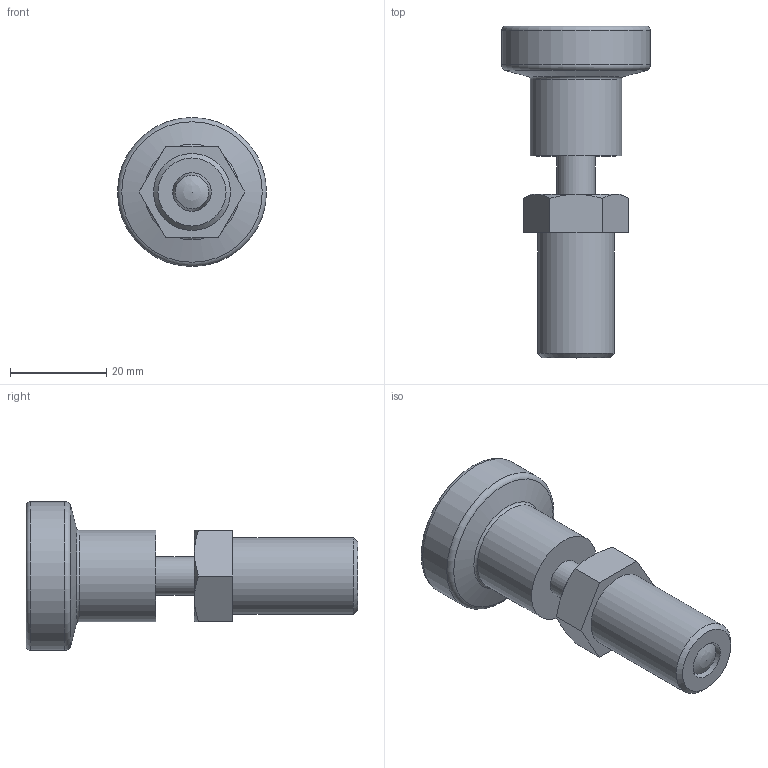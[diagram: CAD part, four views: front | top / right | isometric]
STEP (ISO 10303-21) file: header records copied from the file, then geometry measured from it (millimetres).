
FILE_DESCRIPTION( ( 'STEP AP203' ), '1' );
FILE_NAME( 'C:/Temp/Ganter_Step_05_03_2020/data/3_1/gn617_n/gn617n_an/Stainless Steel Indexing plunger GN 617-8-AN-NI (activated).stp', '2020-03-12T08:43:04', ( 'License CC BY-ND 4.0' ), ( 'CADENAS' ), ' ', 'PARTsolutions', ' ' );
FILE_SCHEMA( ( 'CONFIG_CONTROL_DESIGN' ) );
Length unit declared in the file: millimetre
Products named in the file (3): Stainless Steel Indexing plunger GN 617-8-AN-NI (activated); _STAINLESS STEEL - Indexing plunger GN 617-8-AN-NI-2; _Indexing plunger GN 617-8-AN-NI (1)-1
Assembly tree (2 placements, depth 2):
  Stainless Steel Indexing plunger GN 617-8-AN-NI (activated)
    _STAINLESS STEEL - Indexing plunger GN 617-8-AN-NI-2
    _Indexing plunger GN 617-8-AN-NI (1)-1
Bounding box: 31 x 69 x 31 mm (x, y, z)
Volume: 19208.2 mm3; surface area: 8147.7 mm2
Topology: 2 solids, 2 shells, 38 faces, 73 edges, 44 vertices
Faces by surface type: plane 15, cone 9, cylinder 9, torus 3, bspline 1, sphere 1
Full cylindrical faces by diameter (mm): 8 x4, 14 x2, 16 x1, 18.99 x1, 31 x1
Entity records: 1039 total; most frequent: CARTESIAN_POINT 234, DIRECTION 152, ORIENTED_EDGE 108, AXIS2_PLACEMENT_3D 70, EDGE_LOOP 62, EDGE_CURVE 54, FACE_OUTER_BOUND 50, VERTEX_POINT 44
